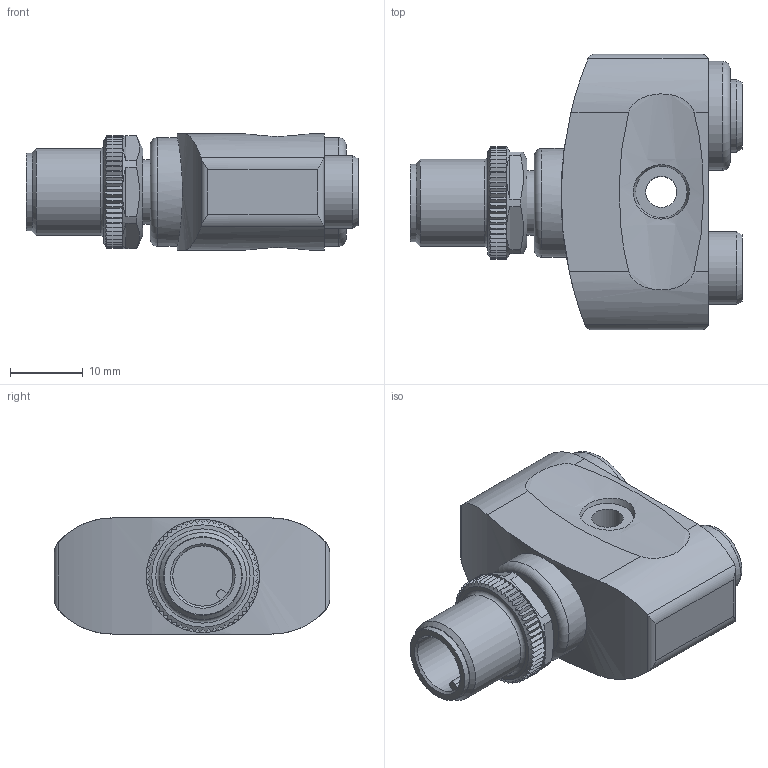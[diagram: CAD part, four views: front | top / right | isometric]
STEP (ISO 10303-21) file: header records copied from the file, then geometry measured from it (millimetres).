
FILE_DESCRIPTION( ( 'STEP AP203' ), ' ' );
FILE_NAME( 'p:/temp/worker_999/4572_1008/app_44_02016062011294389208444192d056f_000000_00_00_000000/format_1/EBC112.stp', '2016-06-20T09:29:45', ( '' ), ( '' ), ' ', 'PARTsolutions', ' ' );
FILE_SCHEMA( ( 'CONFIG_CONTROL_DESIGN' ) );
Length unit declared in the file: millimetre
Products named in the file (1): _EBC112
Bounding box: 45.77 x 38 x 16 mm (x, y, z)
Volume: 13643.1 mm3; surface area: 5132.3 mm2
Topology: 1 solids, 1 shells, 215 faces, 586 edges, 388 vertices
Faces by surface type: plane 166, cylinder 32, cone 10, torus 5, bspline 2
Full cylindrical faces by diameter (mm): 4.3 x1, 5.7 x2, 6.917 x2, 8.3 x1, 8.9 x1, 10 x2, 10.7 x1, 12 x1, 15 x2, 15.6 x1
Entity records: 7218 total; most frequent: CARTESIAN_POINT 2161, ORIENTED_EDGE 1100, DIRECTION 885, EDGE_CURVE 550, VERTEX_POINT 379, LINE 313, VECTOR 313, AXIS2_PLACEMENT_3D 286
